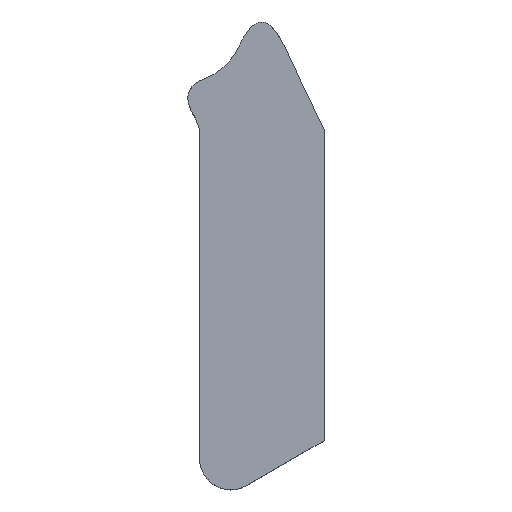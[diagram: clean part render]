
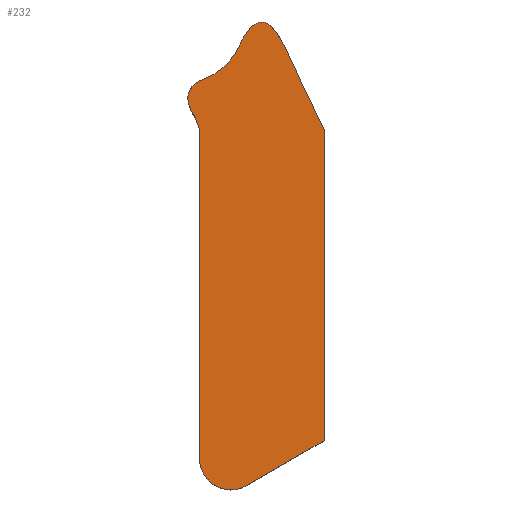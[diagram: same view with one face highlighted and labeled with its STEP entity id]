
A CAD part, top view. The second image highlights one B-rep face of the part: STEP entity #232.
In plain terms, the highlighted planar face has unit normal (0, 0, 1).
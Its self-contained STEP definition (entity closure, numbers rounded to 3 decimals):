
#18=B_SPLINE_CURVE_WITH_KNOTS('',3,(#397,#398,#399,#400),.UNSPECIFIED.,
 .F.,.F.,(4,4),(0.,1.),.UNSPECIFIED.);
#19=B_SPLINE_CURVE_WITH_KNOTS('',3,(#401,#402,#403,#404),.UNSPECIFIED.,
 .F.,.F.,(4,4),(0.,1.),.UNSPECIFIED.);
#23=CIRCLE('',#255,2.5);
#24=CIRCLE('',#260,5.);
#26=CIRCLE('',#263,5.);
#66=ORIENTED_EDGE('',*,*,#116,.T.);
#67=ORIENTED_EDGE('',*,*,#124,.T.);
#68=ORIENTED_EDGE('',*,*,#117,.F.);
#69=ORIENTED_EDGE('',*,*,#125,.T.);
#70=ORIENTED_EDGE('',*,*,#121,.F.);
#71=ORIENTED_EDGE('',*,*,#100,.F.);
#72=ORIENTED_EDGE('',*,*,#104,.F.);
#73=ORIENTED_EDGE('',*,*,#107,.T.);
#74=ORIENTED_EDGE('',*,*,#110,.F.);
#75=ORIENTED_EDGE('',*,*,#113,.F.);
#100=EDGE_CURVE('',#132,#133,#154,.T.);
#104=EDGE_CURVE('',#135,#132,#158,.T.);
#107=EDGE_CURVE('',#135,#137,#23,.T.);
#110=EDGE_CURVE('',#139,#137,#162,.T.);
#113=EDGE_CURVE('',#141,#139,#165,.T.);
#116=EDGE_CURVE('',#141,#143,#167,.T.);
#117=EDGE_CURVE('',#144,#145,#24,.T.);
#121=EDGE_CURVE('',#133,#148,#26,.T.);
#124=EDGE_CURVE('',#143,#145,#18,.T.);
#125=EDGE_CURVE('',#144,#148,#19,.T.);
#132=VERTEX_POINT('',#335);
#133=VERTEX_POINT('',#337);
#135=VERTEX_POINT('',#343);
#137=VERTEX_POINT('',#349);
#139=VERTEX_POINT('',#355);
#141=VERTEX_POINT('',#361);
#143=VERTEX_POINT('',#370);
#144=VERTEX_POINT('',#374);
#145=VERTEX_POINT('',#375);
#148=VERTEX_POINT('',#389);
#154=LINE('',#336,#170);
#158=LINE('',#344,#174);
#162=LINE('',#356,#178);
#165=LINE('',#362,#181);
#167=LINE('',#371,#183);
#170=VECTOR('',#277,1000.);
#174=VECTOR('',#283,1000.);
#178=VECTOR('',#295,1000.);
#181=VECTOR('',#300,1000.);
#183=VECTOR('',#304,1000.);
#192=EDGE_LOOP('',(#66,#67,#68,#69,#70,#71,#72,#73,#74,#75));
#208=FACE_BOUND('',#192,.T.);
#221=PLANE('',#265);
#232=ADVANCED_FACE('',(#208),#221,.T.);
#255=AXIS2_PLACEMENT_3D('',#350,#289,#290);
#260=AXIS2_PLACEMENT_3D('',#373,#307,#308);
#263=AXIS2_PLACEMENT_3D('',#388,#313,#314);
#265=AXIS2_PLACEMENT_3D('',#396,#317,#318);
#277=DIRECTION('',(-0.344,0.939,0.));
#283=DIRECTION('',(0.,1.,0.));
#289=DIRECTION('',(0.,0.,1.));
#290=DIRECTION('',(1.,0.,0.));
#295=DIRECTION('',(-0.866,-0.5,0.));
#300=DIRECTION('',(0.,-1.,0.));
#304=DIRECTION('',(-0.432,0.902,0.));
#307=DIRECTION('',(0.,0.,1.));
#308=DIRECTION('',(1.,0.,0.));
#313=DIRECTION('',(0.,0.,1.));
#314=DIRECTION('',(1.,0.,0.));
#317=DIRECTION('',(0.,0.,1.));
#318=DIRECTION('',(1.,0.,0.));
#335=CARTESIAN_POINT('',(-33.625,-29.875,86.5));
#336=CARTESIAN_POINT('',(-33.711,-29.639,86.5));
#337=CARTESIAN_POINT('',(-33.798,-29.404,86.5));
#343=CARTESIAN_POINT('',(-33.625,-56.318,86.5));
#344=CARTESIAN_POINT('',(-33.625,-53.097,86.5));
#349=CARTESIAN_POINT('',(-29.875,-58.483,86.5));
#350=CARTESIAN_POINT('',(-31.125,-56.318,86.5));
#355=CARTESIAN_POINT('',(-23.625,-54.875,86.5));
#356=CARTESIAN_POINT('',(-26.75,-56.679,86.5));
#361=CARTESIAN_POINT('',(-23.625,-29.875,86.5));
#362=CARTESIAN_POINT('',(-23.625,-52.375,86.5));
#370=CARTESIAN_POINT('',(-26.832,-23.177,86.5));
#371=CARTESIAN_POINT('',(-26.813,-23.219,86.5));
#373=CARTESIAN_POINT('',(-35.,-21.125,86.5));
#374=CARTESIAN_POINT('',(-33.161,-25.774,86.5));
#375=CARTESIAN_POINT('',(-30.454,-23.208,86.5));
#388=CARTESIAN_POINT('',(-38.492,-31.125,86.5));
#389=CARTESIAN_POINT('',(-34.158,-28.631,86.5));
#396=CARTESIAN_POINT('',(0.,-23.875,86.5));
#397=CARTESIAN_POINT('',(-26.832,-23.177,86.5));
#398=CARTESIAN_POINT('',(-28.062,-20.61,86.5));
#399=CARTESIAN_POINT('',(-29.269,-20.621,86.5));
#400=CARTESIAN_POINT('',(-30.454,-23.208,86.5));
#401=CARTESIAN_POINT('',(-33.161,-25.774,86.5));
#402=CARTESIAN_POINT('',(-34.595,-26.342,86.5));
#403=CARTESIAN_POINT('',(-34.928,-27.294,86.5));
#404=CARTESIAN_POINT('',(-34.158,-28.631,86.5));
